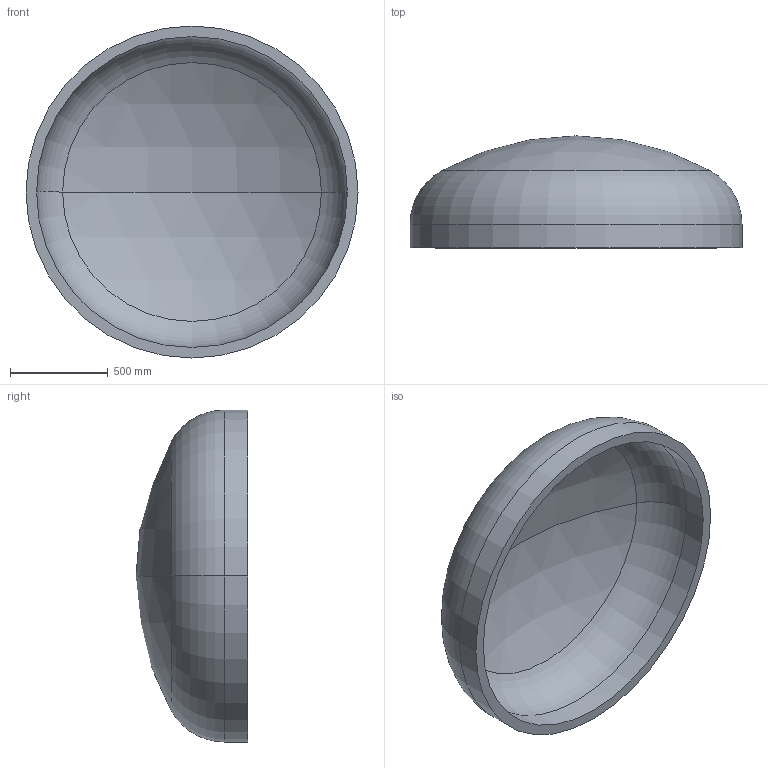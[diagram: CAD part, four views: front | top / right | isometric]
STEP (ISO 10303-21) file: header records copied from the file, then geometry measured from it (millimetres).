
FILE_DESCRIPTION (( 'STEP AP203' ), '1' );
FILE_NAME ('DIN 28013 Korbbogenform_-_Boden DIN 28013 - 1700 x 120 - I - s=54.step', '2016-07-01T11:54:03', ( '' ), ( '' ), 'SwSTEP 2.0', 'SolidWorks 2013', '' );
FILE_SCHEMA (( 'CONFIG_CONTROL_DESIGN' ));
Length unit declared in the file: millimetre
Products named in the file (1): DIN 28013 Korbbogenform_-_Boden DIN 28013 - 1700 x 120 - I - s=54
Bounding box: 1700 x 573.43 x 1700 mm (x, y, z)
Volume: 196149232.9 mm3; surface area: 7550128.9 mm2
Topology: 1 solids, 1 shells, 13 faces, 24 edges, 14 vertices
Faces by surface type: torus 4, cylinder 4, sphere 4, plane 1
Entity records: 407 total; most frequent: DIRECTION 72, CARTESIAN_POINT 52, ORIENTED_EDGE 48, AXIS2_PLACEMENT_3D 34, EDGE_CURVE 24, CIRCLE 20, EDGE_LOOP 14, VERTEX_POINT 14
